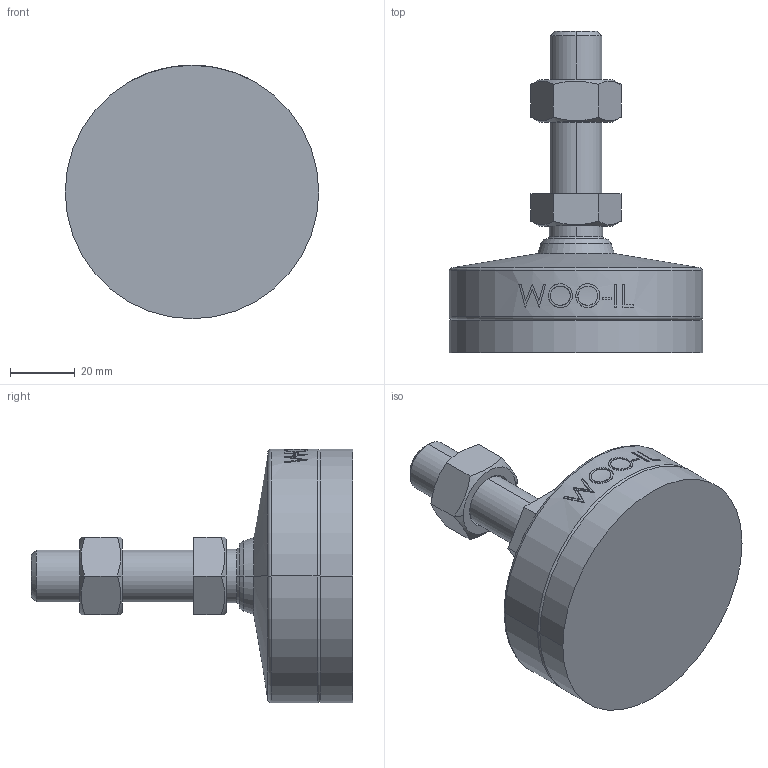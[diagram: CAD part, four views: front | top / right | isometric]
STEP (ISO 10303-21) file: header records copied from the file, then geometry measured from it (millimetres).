
FILE_DESCRIPTION (( 'STEP AP214' ), '1' );
FILE_NAME ('MFNR78-M16-50.step', '2021-02-22T09:08:16', ( '' ), ( '' ), 'SwSTEP 2.0', 'SolidWorks 2019', '' );
FILE_SCHEMA (( 'AUTOMOTIVE_DESIGN' ));
Length unit declared in the file: millimetre
Products named in the file (2): MFNR78-M16-50
Bounding box: 78 x 99 x 78 mm (x, y, z)
Volume: 155428.1 mm3; surface area: 22756.1 mm2
Topology: 2 solids, 2 shells, 105 faces, 245 edges, 156 vertices
Faces by surface type: plane 47, cone 18, cylinder 18, bspline 16, torus 4, sphere 2
Entity records: 4517 total; most frequent: CARTESIAN_POINT 2180, ORIENTED_EDGE 490, DIRECTION 437, EDGE_CURVE 245, AXIS2_PLACEMENT_3D 167, VERTEX_POINT 156, EDGE_LOOP 119, ADVANCED_FACE 105
